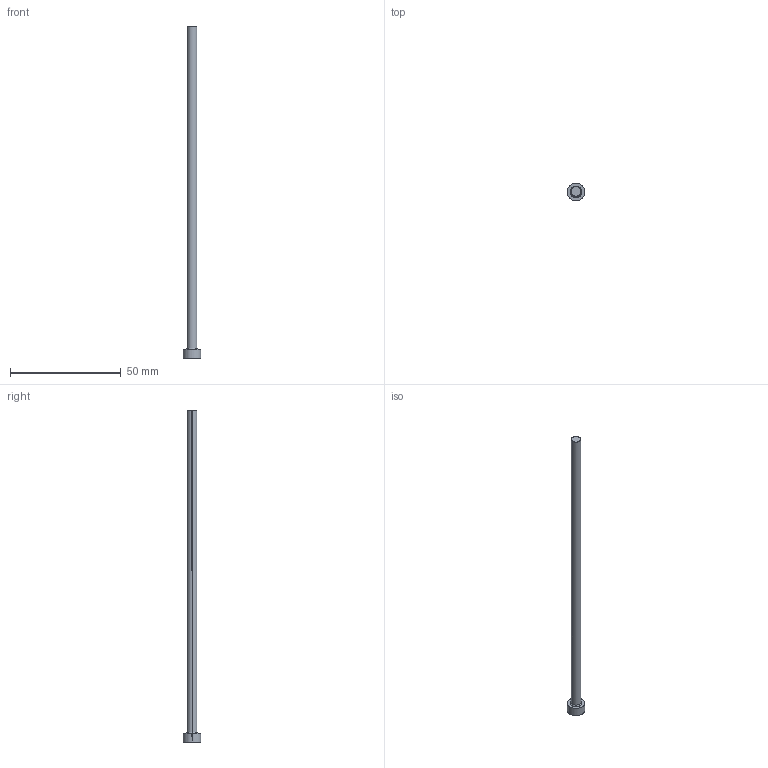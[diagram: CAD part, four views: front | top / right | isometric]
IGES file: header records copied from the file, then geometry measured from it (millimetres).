
Start section: SolidWorks IGES file using analytic representation for surfaces
Global section: file name: D:\Current\W1-2\EPH\EPH4.4-150.igs; native system: SolidWorks 2017; preprocessor: SolidWorks 2017; author: Ravi Kalvai; date: 240411.171138; units: millimetre
Bounding box: 8 x 8 x 150 mm (x, y, z)
Surface area: 2216.4 mm2 (no closed solid volume)
Topology: 0 solids, 0 shells, 9 faces, 152 edges, 152 vertices
Faces by surface type: bspline 5, revolution 4
